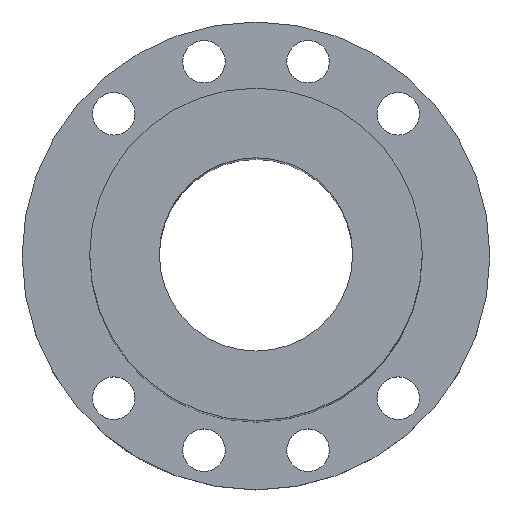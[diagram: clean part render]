
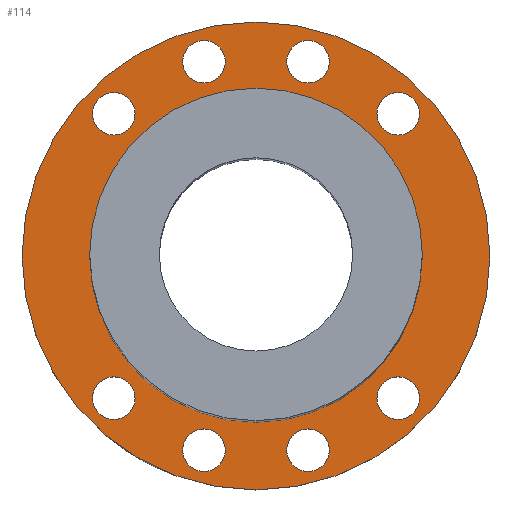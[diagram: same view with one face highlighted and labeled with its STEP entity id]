
A CAD part, top view. The second image highlights one B-rep face of the part: STEP entity #114.
In plain terms, the highlighted planar face has unit normal (0, 0, 1).
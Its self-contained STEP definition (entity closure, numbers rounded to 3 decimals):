
#99=PLANE('',#401);
#114=ADVANCED_FACE('',(#169,#170,#171,#172,#173,#174,#175,#176,#177,#178),
#99,.T.);
#169=FACE_BOUND('',#221,.T.);
#170=FACE_BOUND('',#222,.T.);
#171=FACE_BOUND('',#223,.T.);
#172=FACE_BOUND('',#224,.T.);
#173=FACE_BOUND('',#225,.T.);
#174=FACE_BOUND('',#226,.T.);
#175=FACE_BOUND('',#227,.T.);
#176=FACE_BOUND('',#228,.T.);
#177=FACE_BOUND('',#229,.T.);
#178=FACE_BOUND('',#230,.T.);
#221=EDGE_LOOP('',(#273));
#222=EDGE_LOOP('',(#274));
#223=EDGE_LOOP('',(#275));
#224=EDGE_LOOP('',(#276));
#225=EDGE_LOOP('',(#277));
#226=EDGE_LOOP('',(#278));
#227=EDGE_LOOP('',(#279));
#228=EDGE_LOOP('',(#280));
#229=EDGE_LOOP('',(#281));
#230=EDGE_LOOP('',(#282));
#273=ORIENTED_EDGE('',*,*,#316,.T.);
#274=ORIENTED_EDGE('',*,*,#337,.T.);
#275=ORIENTED_EDGE('',*,*,#336,.F.);
#276=ORIENTED_EDGE('',*,*,#335,.F.);
#277=ORIENTED_EDGE('',*,*,#334,.T.);
#278=ORIENTED_EDGE('',*,*,#333,.F.);
#279=ORIENTED_EDGE('',*,*,#332,.F.);
#280=ORIENTED_EDGE('',*,*,#318,.T.);
#281=ORIENTED_EDGE('',*,*,#331,.T.);
#282=ORIENTED_EDGE('',*,*,#338,.T.);
#290=VERTEX_POINT('',#495);
#292=VERTEX_POINT('',#557);
#305=VERTEX_POINT('',#644);
#306=VERTEX_POINT('',#647);
#307=VERTEX_POINT('',#650);
#308=VERTEX_POINT('',#653);
#309=VERTEX_POINT('',#656);
#310=VERTEX_POINT('',#659);
#311=VERTEX_POINT('',#662);
#312=VERTEX_POINT('',#665);
#316=EDGE_CURVE('',#290,#290,#342,.T.);
#318=EDGE_CURVE('',#292,#292,#343,.T.);
#331=EDGE_CURVE('',#305,#305,#355,.T.);
#332=EDGE_CURVE('',#306,#306,#356,.T.);
#333=EDGE_CURVE('',#307,#307,#357,.T.);
#334=EDGE_CURVE('',#308,#308,#358,.T.);
#335=EDGE_CURVE('',#309,#309,#359,.T.);
#336=EDGE_CURVE('',#310,#310,#360,.T.);
#337=EDGE_CURVE('',#311,#311,#361,.T.);
#338=EDGE_CURVE('',#312,#312,#362,.T.);
#342=CIRCLE('',#367,60.5);
#343=CIRCLE('',#369,43.);
#355=CIRCLE('',#385,5.5);
#356=CIRCLE('',#387,5.5);
#357=CIRCLE('',#389,5.5);
#358=CIRCLE('',#391,5.5);
#359=CIRCLE('',#393,5.5);
#360=CIRCLE('',#395,5.5);
#361=CIRCLE('',#397,5.5);
#362=CIRCLE('',#399,5.5);
#367=AXIS2_PLACEMENT_3D('',#494,#411,#412);
#369=AXIS2_PLACEMENT_3D('',#556,#415,#416);
#385=AXIS2_PLACEMENT_3D('',#643,#447,#448);
#387=AXIS2_PLACEMENT_3D('',#646,#451,#452);
#389=AXIS2_PLACEMENT_3D('',#649,#455,#456);
#391=AXIS2_PLACEMENT_3D('',#652,#459,#460);
#393=AXIS2_PLACEMENT_3D('',#655,#463,#464);
#395=AXIS2_PLACEMENT_3D('',#658,#467,#468);
#397=AXIS2_PLACEMENT_3D('',#661,#471,#472);
#399=AXIS2_PLACEMENT_3D('',#664,#475,#476);
#401=AXIS2_PLACEMENT_3D('',#667,#479,#480);
#411=DIRECTION('',(0.,0.,1.));
#412=DIRECTION('',(1.,0.,0.));
#415=DIRECTION('',(0.,0.,-1.));
#416=DIRECTION('',(1.,0.,0.));
#447=DIRECTION('',(0.,0.,-1.));
#448=DIRECTION('',(-1.,0.,0.));
#451=DIRECTION('',(0.,0.,1.));
#452=DIRECTION('',(-1.,0.,0.));
#455=DIRECTION('',(0.,0.,1.));
#456=DIRECTION('',(1.,0.,0.));
#459=DIRECTION('',(0.,0.,-1.));
#460=DIRECTION('',(-1.,0.,0.));
#463=DIRECTION('',(0.,0.,1.));
#464=DIRECTION('',(1.,0.,0.));
#467=DIRECTION('',(0.,0.,1.));
#468=DIRECTION('',(-1.,0.,0.));
#471=DIRECTION('',(0.,0.,-1.));
#472=DIRECTION('',(1.,0.,0.));
#475=DIRECTION('',(0.,0.,-1.));
#476=DIRECTION('',(1.,0.,0.));
#479=DIRECTION('',(0.,0.,1.));
#480=DIRECTION('',(1.,0.,0.));
#494=CARTESIAN_POINT('',(0.,0.,16.));
#495=CARTESIAN_POINT('',(60.5,0.,16.));
#556=CARTESIAN_POINT('',(0.,0.,16.));
#557=CARTESIAN_POINT('',(43.,0.,16.));
#643=CARTESIAN_POINT('',(36.77,36.77,16.));
#644=CARTESIAN_POINT('',(31.27,36.77,16.));
#646=CARTESIAN_POINT('',(13.459,-50.228,16.));
#647=CARTESIAN_POINT('',(7.959,-50.228,16.));
#649=CARTESIAN_POINT('',(-36.77,36.77,16.));
#650=CARTESIAN_POINT('',(-31.27,36.77,16.));
#652=CARTESIAN_POINT('',(13.459,50.228,16.));
#653=CARTESIAN_POINT('',(7.959,50.228,16.));
#655=CARTESIAN_POINT('',(-13.459,50.228,16.));
#656=CARTESIAN_POINT('',(-7.959,50.228,16.));
#658=CARTESIAN_POINT('',(36.77,-36.77,16.));
#659=CARTESIAN_POINT('',(31.27,-36.77,16.));
#661=CARTESIAN_POINT('',(-36.77,-36.77,16.));
#662=CARTESIAN_POINT('',(-31.27,-36.77,16.));
#664=CARTESIAN_POINT('',(-13.459,-50.228,16.));
#665=CARTESIAN_POINT('',(-7.959,-50.228,16.));
#667=CARTESIAN_POINT('',(-18.385,-18.385,16.));
